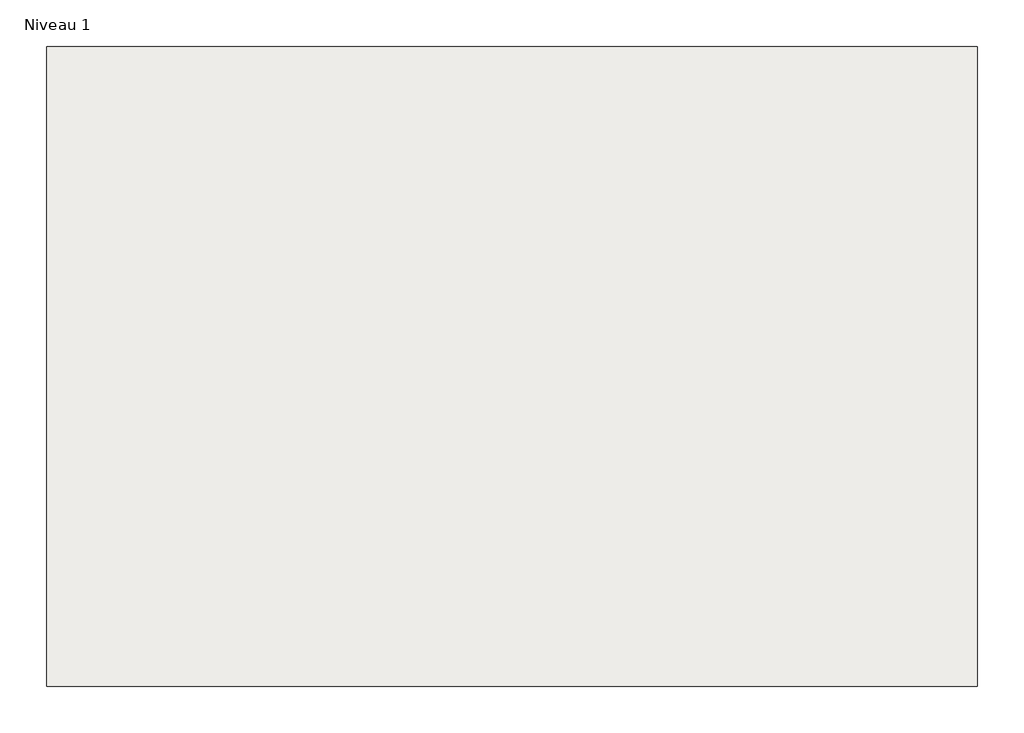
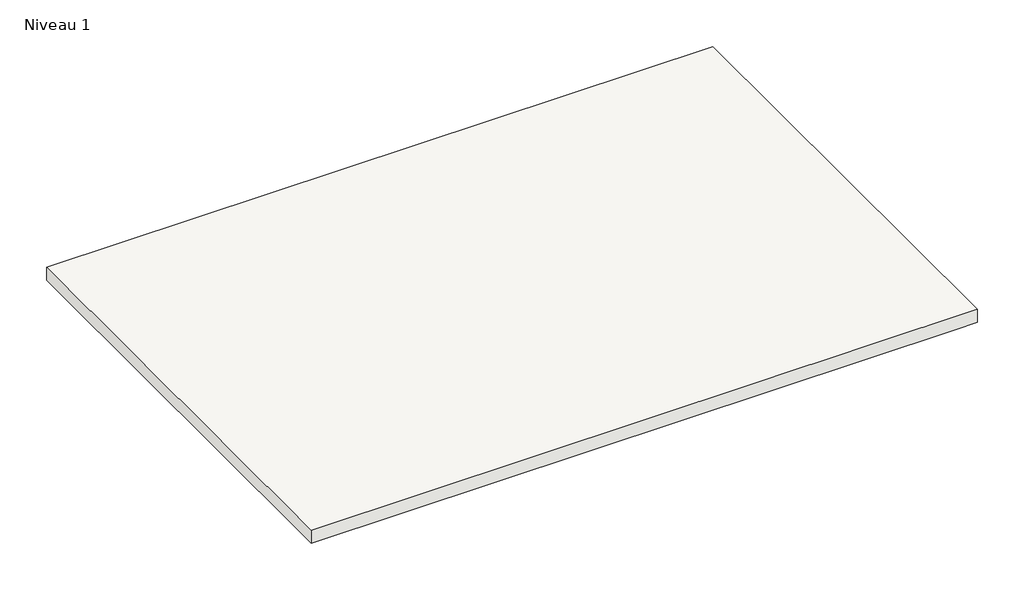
# One storey: 1 slab.
"""IFC4 building model written with IfcOpenShell, lengths in millimetres."""

from ifc_helpers import new_model, si_unit, origin, place, context, project, spatial, faceted_brep, element, save

model = new_model("IFC4")

# Units and contexts
model_context = context("Model", 3, world=origin())
ifc_project = project(units=[si_unit("LENGTHUNIT", "METRE", prefix="MILLI")], contexts=[model_context])

# Site, building, storey
site = spatial("IfcSite", under=ifc_project)
building = spatial("IfcBuilding", under=site)
storey = spatial("IfcBuildingStorey", under=building, Name="Niveau 1", Elevation=3000.0)

# Slab
placement = place(None, origin())
element("IfcSlab", 1, ObjectType="Dalle en béton - 100 mm", at=placement, inside=storey, context=model_context, shape_type="Brep", body=[
    faceted_brep([(-8287.1780377, 8941.4323141, 2900.0), (-8287.1780377, 8791.4323141, 2900.0), (-8287.1780377, 5641.4323141, 2900.0), (-8437.1780377, 5641.4323141, 2900.0), (-13087.1780377, 5641.4323141, 2900.0), (-13087.1780377, 5791.4323141, 2900.0), (-13087.1780377, 8791.4323141, 2900.0), (-13087.1780377, 8941.4323141, 2900.0), (-8287.1780377, 8941.4323141, 3000.0), (-13087.1780377, 8941.4323141, 3000.0), (-13087.1780377, 5641.4323141, 3000.0), (-8287.1780377, 5641.4323141, 3000.0)], [[[0, 1, 2, 3, 4, 5, 6, 7]], [[8, 9, 10, 11]], [[2, 1, 0, 8, 11]], [[4, 3, 2, 11, 10]], [[7, 6, 5, 4, 10, 9]], [[0, 7, 9, 8]]]),
])

save(model, "model.ifc")
